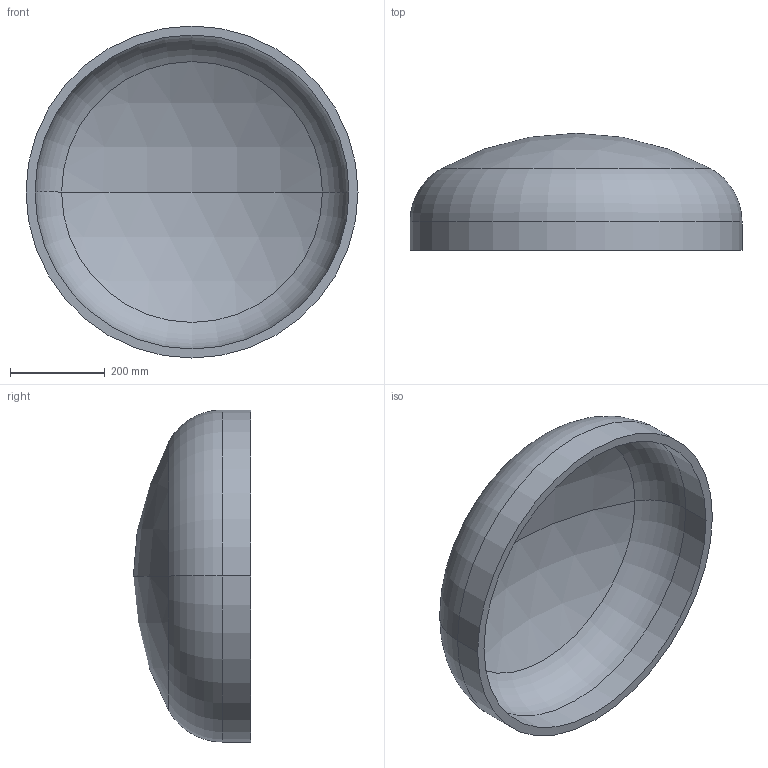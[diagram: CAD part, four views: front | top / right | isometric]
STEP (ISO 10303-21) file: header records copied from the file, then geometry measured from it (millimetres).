
FILE_DESCRIPTION (( 'STEP AP203' ), '1' );
FILE_NAME ('DIN 28013 Korbbogenform_-_Boden DIN 28013 - 700 x 60 - I - s=19.step', '2016-07-01T08:05:07', ( '' ), ( '' ), 'SwSTEP 2.0', 'SolidWorks 2013', '' );
FILE_SCHEMA (( 'CONFIG_CONTROL_DESIGN' ));
Length unit declared in the file: millimetre
Products named in the file (1): DIN 28013 Korbbogenform_-_Boden DIN 28013 - 700 x 60 - I - s=19
Bounding box: 700 x 247.01 x 700 mm (x, y, z)
Volume: 12252372.4 mm3; surface area: 1331128.2 mm2
Topology: 1 solids, 1 shells, 13 faces, 24 edges, 14 vertices
Faces by surface type: torus 4, cylinder 4, sphere 4, plane 1
Entity records: 407 total; most frequent: DIRECTION 72, CARTESIAN_POINT 52, ORIENTED_EDGE 48, AXIS2_PLACEMENT_3D 34, EDGE_CURVE 24, CIRCLE 20, VERTEX_POINT 14, EDGE_LOOP 14
